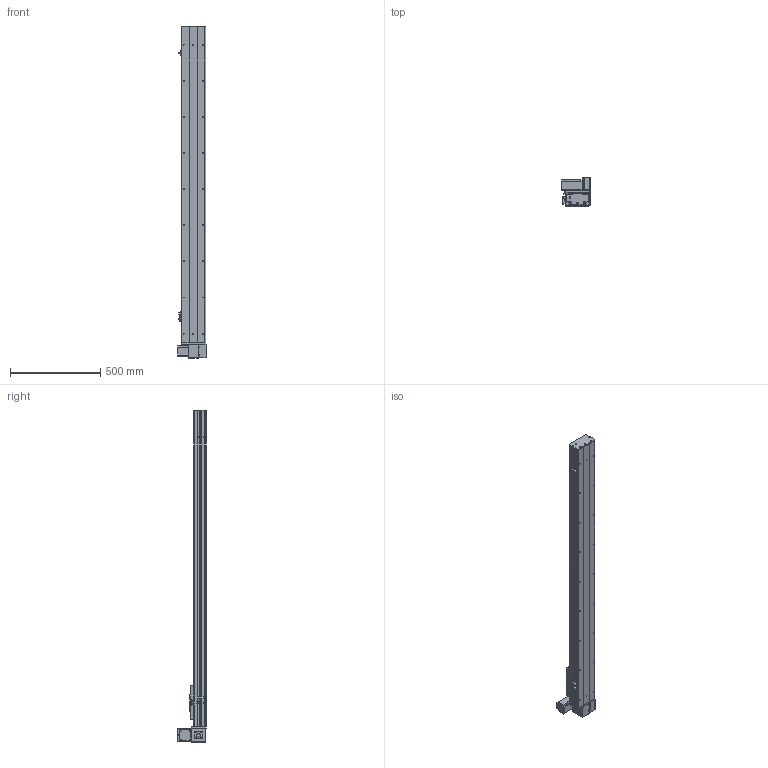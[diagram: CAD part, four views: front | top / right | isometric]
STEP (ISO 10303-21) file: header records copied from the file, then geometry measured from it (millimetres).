
FILE_DESCRIPTION (( 'STEP AP203' ), '1' );
FILE_NAME ('Y135CB-D90-S1450-UL-P400W.STEP', '2020-02-18T07:32:56', ( '微软用户' ), ( '微软中国' ), 'SwSTEP 2.0', 'SolidWorks 2017', '' );
FILE_SCHEMA (( 'CONFIG_CONTROL_DESIGN' ));
Length unit declared in the file: millimetre
Products named in the file (18): 0B-埴倛裔啣; C-雄赽釱--; 0B-源倛裔啣; Y10B-耜蚾蟀諉啣----; 0B-萇儂楊擘啣; 00B-俋欶BM--; san松下电机400不带刹车----; Y10B--々湍喘謫眊--666; C-詩湍揤踡え-陔; 5CB --掛极耜裔啣-; Y135CB-D90-S1450-UL-P400W; 135CB--詩湍-CE; Y135CB-耜裔; Y100-135俋离換覜ん--; 135CB---遴掛极.-; Y135C-陔俋离換覜結え-; 35CB---喘謫眊楊擘啣; 5C--俋欶
Assembly tree (21 placements, depth 2):
  Y135CB-D90-S1450-UL-P400W
    Y135CB-耜裔
    135CB---遴掛极.-
    35CB---喘謫眊楊擘啣
    0B-埴倛裔啣
    0B-源倛裔啣
    0B-萇儂楊擘啣
    san松下电机400不带刹车----
    5CB --掛极耜裔啣-  x2
    C-詩湍揤踡え-陔  x2
    135CB--詩湍-CE
    Y100-135俋离換覜ん--  x3
    Y135C-陔俋离換覜結え-
    5C--俋欶
    C-雄赽釱--
    Y10B-耜蚾蟀諉啣----
    00B-俋欶BM--
    Y10B--々湍喘謫眊--666
Bounding box: 157 x 158.7 x 1838 mm (x, y, z)
Volume: 5555119.7 mm3; surface area: 2185329.1 mm2
Topology: 21 solids, 21 shells, 953 faces, 2563 edges, 1698 vertices
Faces by surface type: cylinder 481, plane 456, cone 16
Entity records: 29753 total; most frequent: DIRECTION 4943, CARTESIAN_POINT 4900, ORIENTED_EDGE 4602, EDGE_CURVE 2301, AXIS2_PLACEMENT_3D 1805, VERTEX_POINT 1526, VECTOR 1333, LINE 1333
